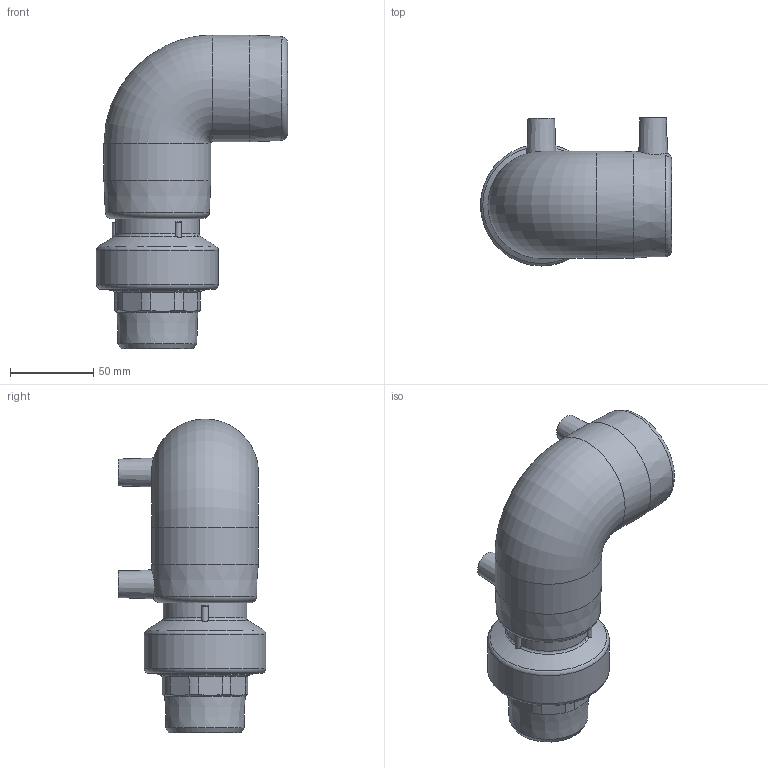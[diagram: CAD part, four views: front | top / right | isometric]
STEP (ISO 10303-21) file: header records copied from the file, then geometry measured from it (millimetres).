
FILE_DESCRIPTION(/* description */ ('Unknown'),/* implementation_level */ '2;1');
FILE_NAME(/* name */ 'GE9TMP050C',/* time_stamp */ '2021-03-02T12:25:51+01:00',/* author */ ('Unknown'),/* organization */ ('Unknown'),/* preprocessor_version */ 'ST-DEVELOPER v16.7',/* originating_system */ 'Solid Edge',/* authorisation */ 'Unknown');
FILE_SCHEMA (('AUTOMOTIVE_DESIGN {1 0 10303 214 3 1 1}'));
Length unit declared in the file: millimetre
Products named in the file (5): GE9TMP050C; GE9P050C; RTOMP050C; Parte PE 050; IOM050C
Assembly tree (4 placements, depth 3):
  GE9TMP050C
    GE9P050C
    RTOMP050C
      Parte PE 050
      IOM050C
Bounding box: 114.5 x 88.5 x 188 mm (x, y, z)
Volume: 341877.5 mm3; surface area: 116044 mm2
Topology: 3 solids, 3 shells, 540 faces, 1450 edges, 935 vertices
Faces by surface type: cylinder 216, plane 134, bspline 75, cone 72, torus 31, sphere 12
Full cylindrical faces by diameter (mm): 4 x2, 12 x2, 38 x1, 40.8 x1, 44 x2, 48.3 x2, 48.5 x2, 50 x3, 56.5 x2, 57 x1, 61.5 x2, 61.587 x2, 64 x2, 73 x1
Entity records: 21670 total; most frequent: CARTESIAN_POINT 7650, ORIENTED_EDGE 2746, DIRECTION 2234, EDGE_CURVE 1373, AXIS2_PLACEMENT_3D 999, VERTEX_POINT 912, EDGE_LOOP 619, FACE_BOUND 619
